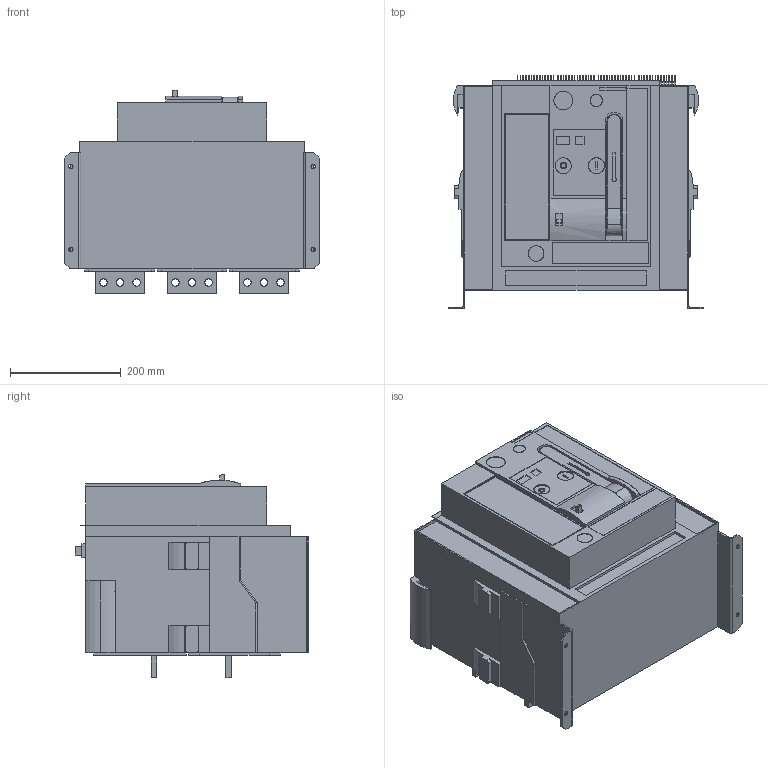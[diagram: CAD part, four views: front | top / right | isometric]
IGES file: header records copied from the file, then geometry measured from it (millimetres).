
Start section: SolidWorks IGES file using analytic representation for surfaces
Global section: file name: U:\14_RD\05_Technical_office\04_Office\Hrdinova\3D modely - IGES\Arion\ARION_WL1220-___32.IGS; native system: SolidWorks 2011; preprocessor: SolidWorks 2011; author: adhrja3; date: 170609.075744; units: millimetre
Bounding box: 460 x 422.4 x 367.16 mm (x, y, z)
Surface area: 1145107.6 mm2 (no closed solid volume)
Topology: 0 solids, 0 shells, 1257 faces, 11791 edges, 11791 vertices
Faces by surface type: bspline 1023, revolution 234
